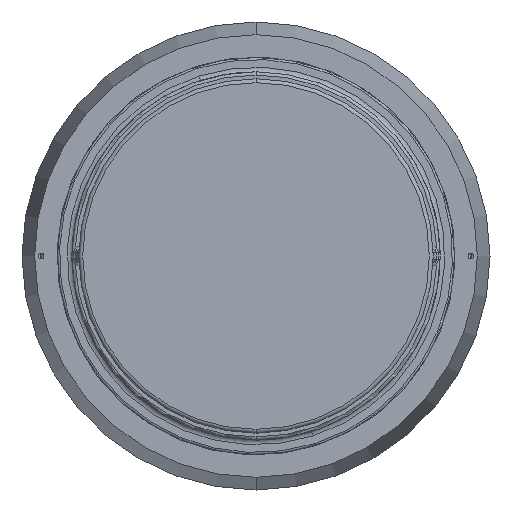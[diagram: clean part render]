
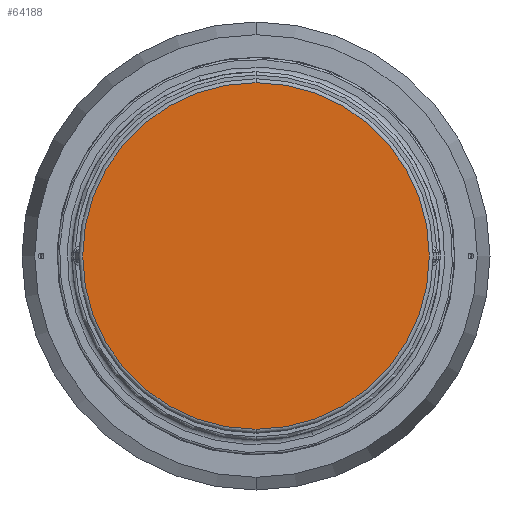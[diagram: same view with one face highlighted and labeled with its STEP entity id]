
A CAD part, front view. The second image highlights one B-rep face of the part: STEP entity #64188.
In plain terms, the highlighted planar face has unit normal (0, -1, 0).
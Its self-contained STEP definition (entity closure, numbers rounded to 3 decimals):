
#5731 = CARTESIAN_POINT ( 'NONE',  ( 0., -800.8, -266.25 ) ) ;
#10170 = EDGE_CURVE ( 'NONE', #40937, #138047, #134999, .T. ) ;
#10872 = AXIS2_PLACEMENT_3D ( 'NONE', #142460, #69974, #154607 ) ;
#12223 = DIRECTION ( 'NONE',  ( 0., -1., 0. ) ) ;
#35046 = ORIENTED_EDGE ( 'NONE', *, *, #108327, .T. ) ;
#40937 = VERTEX_POINT ( 'NONE', #46129 ) ;
#46129 = CARTESIAN_POINT ( 'NONE',  ( 0., -800.8, 266.25 ) ) ;
#52695 = DIRECTION ( 'NONE',  ( 0., -1., 0. ) ) ;
#64188 = ADVANCED_FACE ( 'NONE', ( #123213 ), #76569, .T. ) ;
#69974 = DIRECTION ( 'NONE',  ( 0., -1., 0. ) ) ;
#74479 = AXIS2_PLACEMENT_3D ( 'NONE', #125295, #52695, #137393 ) ;
#76569 = PLANE ( 'NONE',  #74479 ) ;
#84807 = CARTESIAN_POINT ( 'NONE',  ( 0., -800.8, 0. ) ) ;
#97000 = DIRECTION ( 'NONE',  ( 0., 0., 1. ) ) ;
#108327 = EDGE_CURVE ( 'NONE', #138047, #40937, #123793, .T. ) ;
#123213 = FACE_OUTER_BOUND ( 'NONE', #132767, .T. ) ;
#123793 = CIRCLE ( 'NONE', #139127, 266.25 ) ;
#125295 = CARTESIAN_POINT ( 'NONE',  ( -266.25, -800.8, 0. ) ) ;
#132767 = EDGE_LOOP ( 'NONE', ( #151949, #35046 ) ) ;
#134999 = CIRCLE ( 'NONE', #10872, 266.25 ) ;
#137393 = DIRECTION ( 'NONE',  ( 0., 0., -1. ) ) ;
#138047 = VERTEX_POINT ( 'NONE', #5731 ) ;
#139127 = AXIS2_PLACEMENT_3D ( 'NONE', #84807, #12223, #97000 ) ;
#142460 = CARTESIAN_POINT ( 'NONE',  ( 0., -800.8, 0. ) ) ;
#151949 = ORIENTED_EDGE ( 'NONE', *, *, #10170, .T. ) ;
#154607 = DIRECTION ( 'NONE',  ( 0., 0., 1. ) ) ;
